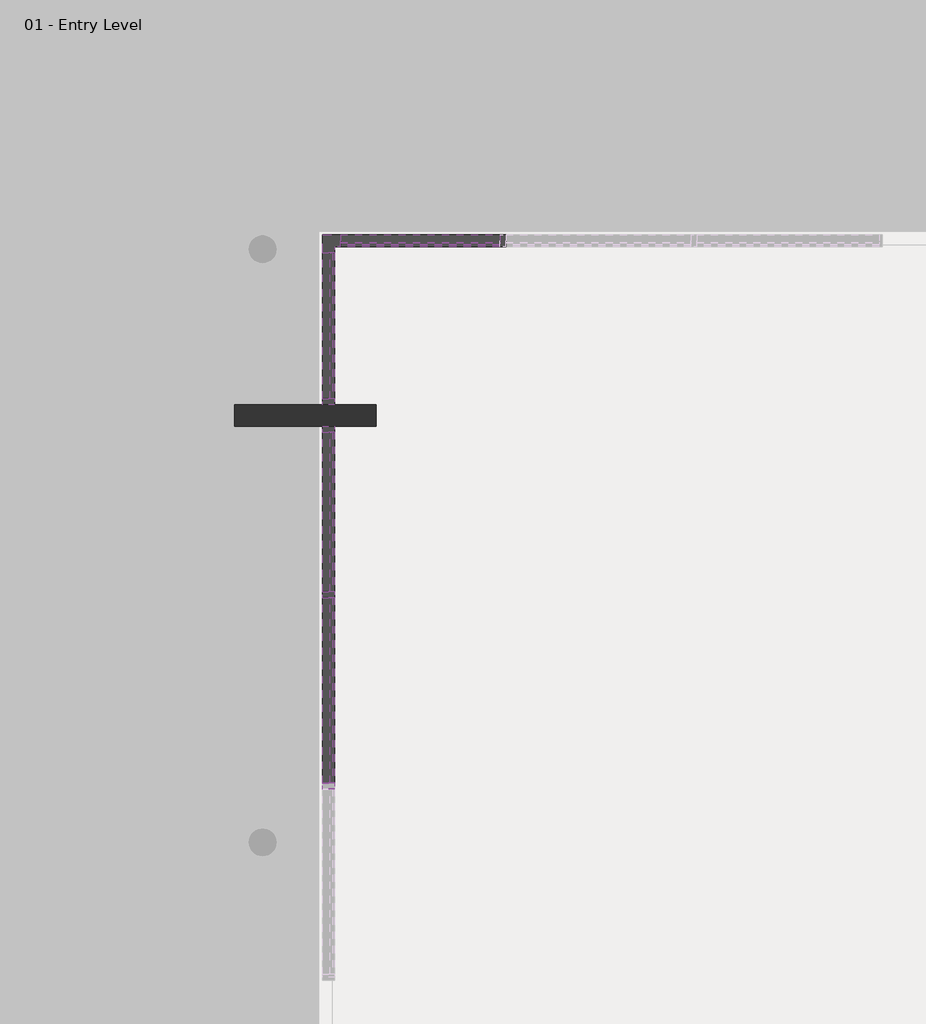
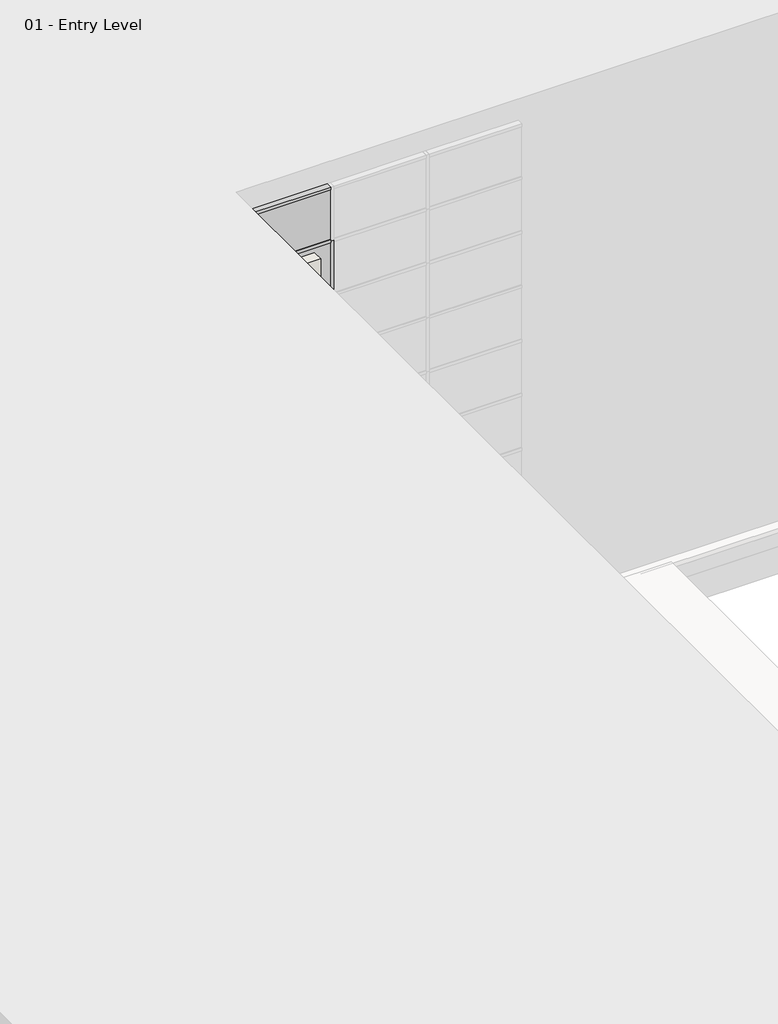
# One storey, part 25 of 35: 92 members, 36 plates, 1 wall.
"""IFC4 building model written with IfcOpenShell, lengths in millimetres."""

from ifc_helpers import new_model, si_unit, origin, origin_with_axes, place, context, project, spatial, polyline, outline, extrude, transform, mapped, element, save
from components import member_863be36e, member_2b49869a, member_75074519, member_391b434c, member_9e90ae50, member_515a5600, member_9fe7059d, member_fedd83b6, member_c1df12fd, system_panel_glazed_1b9d6098, system_panel_glazed_70da479d, system_panel_glazed_379c68fb, system_panel_glazed_1c1023c8, system_panel_glazed_2f1fb611, system_panel_glazed_7e97f2aa

model = new_model("IFC4")

# Units and contexts
model_context = context("Model", 3, world=origin())
ifc_project = project(units=[si_unit("LENGTHUNIT", "METRE", prefix="MILLI")], contexts=[model_context])

# Site, building, storey
site = spatial("IfcSite", under=ifc_project)
building = spatial("IfcBuilding", under=site)
storey = spatial("IfcBuildingStorey", under=building, Name="01 - Entry Level", Elevation=0.0)

# Members
placement = place(None, origin())
member_shape = member_863be36e(model_context)
element("IfcMember", 1, ObjectType="L Corner Mullion : 5\" x 5\" Corner", at=placement, inside=storey, context=model_context, shape_type="MappedRepresentation", body=[
    mapped(member_shape, transform((17184.0207476, 42751.3, 10972.8), x_axis=(-1.0, 0.0, 0.0), y_axis=(0.0, -1.0, 0.0), z_axis=(0.0, 0.0, 1.0))),
])
element("IfcMember", 2, ObjectType="L Corner Mullion : 5\" x 5\" Corner", at=placement, inside=storey, context=model_context, shape_type="MappedRepresentation", body=[
    mapped(member_shape, transform((17184.0207476, 42751.3, 1219.2), x_axis=(-1.0, 0.0, 0.0), y_axis=(0.0, -1.0, 0.0), z_axis=(0.0, 0.0, 1.0))),
])
element("IfcMember", 3, ObjectType="L Corner Mullion : 5\" x 5\" Corner", at=placement, inside=storey, context=model_context, shape_type="MappedRepresentation", body=[
    mapped(member_shape, transform((17184.0207476, 42751.3, 2438.4), x_axis=(-1.0, 0.0, 0.0), y_axis=(0.0, -1.0, 0.0), z_axis=(0.0, 0.0, 1.0))),
])
element("IfcMember", 4, ObjectType="L Corner Mullion : 5\" x 5\" Corner", at=placement, inside=storey, context=model_context, shape_type="MappedRepresentation", body=[
    mapped(member_shape, transform((17184.0207476, 42751.3, 3657.6), x_axis=(-1.0, 0.0, 0.0), y_axis=(0.0, -1.0, 0.0), z_axis=(0.0, 0.0, 1.0))),
])
element("IfcMember", 5, ObjectType="L Corner Mullion : 5\" x 5\" Corner", at=placement, inside=storey, context=model_context, shape_type="MappedRepresentation", body=[
    mapped(member_shape, transform((17184.0207476, 42751.3, 4876.8), x_axis=(-1.0, 0.0, 0.0), y_axis=(0.0, -1.0, 0.0), z_axis=(0.0, 0.0, 1.0))),
])
element("IfcMember", 6, ObjectType="L Corner Mullion : 5\" x 5\" Corner", at=placement, inside=storey, context=model_context, shape_type="MappedRepresentation", body=[
    mapped(member_shape, transform((17184.0207476, 42751.3, 6096.0), x_axis=(-1.0, 0.0, 0.0), y_axis=(0.0, -1.0, 0.0), z_axis=(0.0, 0.0, 1.0))),
])
element("IfcMember", 7, ObjectType="L Corner Mullion : 5\" x 5\" Corner", at=placement, inside=storey, context=model_context, shape_type="MappedRepresentation", body=[
    mapped(member_shape, transform((17184.0207476, 42751.3, 7315.2), x_axis=(-1.0, 0.0, 0.0), y_axis=(0.0, -1.0, 0.0), z_axis=(0.0, 0.0, 1.0))),
])
element("IfcMember", 8, ObjectType="L Corner Mullion : 5\" x 5\" Corner", at=placement, inside=storey, context=model_context, shape_type="MappedRepresentation", body=[
    mapped(member_shape, transform((17184.0207476, 42751.3, 8534.4), x_axis=(-1.0, 0.0, 0.0), y_axis=(0.0, -1.0, 0.0), z_axis=(0.0, 0.0, 1.0))),
])
element("IfcMember", 9, ObjectType="L Corner Mullion : 5\" x 5\" Corner", at=placement, inside=storey, context=model_context, shape_type="MappedRepresentation", body=[
    mapped(member_shape, transform((17184.0207476, 42751.3, 9753.6), x_axis=(-1.0, 0.0, 0.0), y_axis=(0.0, -1.0, 0.0), z_axis=(0.0, 0.0, 1.0))),
])
member_2_shape = member_2b49869a(model_context)
element("IfcMember", 10, ObjectType="Rectangular Mullion : 2.5\" x 5\" rectangular", at=placement, inside=storey, context=model_context, shape_type="MappedRepresentation", body=[
    mapped(member_2_shape, transform((17184.0207476, 36960.1, 9753.6), x_axis=(0.0, 1.0, 0.0), y_axis=(1.0, 0.0, 0.0), z_axis=(0.0, 0.0, -1.0))),
])
element("IfcMember", 11, ObjectType="Rectangular Mullion : 2.5\" x 5\" rectangular", at=placement, inside=storey, context=model_context, shape_type="MappedRepresentation", body=[
    mapped(member_2_shape, transform((17184.0207476, 38992.1, 9753.6), x_axis=(0.0, 1.0, 0.0), y_axis=(1.0, 0.0, 0.0), z_axis=(0.0, 0.0, -1.0))),
])
member_3_shape = member_75074519(model_context)
element("IfcMember", 12, ObjectType="Rectangular Mullion : 2.5\" x 5\" rectangular", at=placement, inside=storey, context=model_context, shape_type="MappedRepresentation", body=[
    mapped(member_3_shape, transform((17184.0207476, 41011.4, 10972.8), x_axis=(0.0, -1.0, 0.0), y_axis=(1.0, 0.0, 0.0), z_axis=(0.0, 0.0, 1.0))),
])
element("IfcMember", 13, ObjectType="Rectangular Mullion : 2.5\" x 5\" rectangular", at=placement, inside=storey, context=model_context, shape_type="MappedRepresentation", body=[
    mapped(member_3_shape, transform((17184.0207476, 40782.8, 9753.6), x_axis=(0.0, 1.0, 0.0), y_axis=(1.0, 0.0, 0.0), z_axis=(0.0, 0.0, -1.0))),
])
member_4_shape = member_391b434c(model_context)
element("IfcMember", 14, ObjectType="Rectangular Mullion : 2.5\" x 5\" rectangular", at=placement, inside=storey, context=model_context, shape_type="MappedRepresentation", body=[
    mapped(member_4_shape, transform((17184.0207476, 38960.35, 10972.8), x_axis=(0.0, 0.0, 1.0), y_axis=(1.0, 0.0, 0.0), z_axis=(0.0, 1.0, 0.0))),
])
element("IfcMember", 15, ObjectType="Rectangular Mullion : 2.5\" x 5\" rectangular", at=placement, inside=storey, context=model_context, shape_type="MappedRepresentation", body=[
    mapped(member_4_shape, transform((19069.9707476, 42751.3, 0.0), x_axis=(0.0, 0.0, -1.0), y_axis=(0.0, -1.0, 0.0), z_axis=(-1.0, 0.0, 0.0))),
])
member_5_shape = member_9e90ae50(model_context)
element("IfcMember", 16, ObjectType="Rectangular Mullion : 2.5\" x 5\" rectangular", at=placement, inside=storey, context=model_context, shape_type="MappedRepresentation", body=[
    mapped(member_5_shape, transform((17184.0207476, 38960.35, 1219.2), x_axis=(0.0, 0.0, 1.0), y_axis=(1.0, 0.0, 0.0), z_axis=(0.0, 1.0, 0.0))),
])
element("IfcMember", 17, ObjectType="Rectangular Mullion : 2.5\" x 5\" rectangular", at=placement, inside=storey, context=model_context, shape_type="MappedRepresentation", body=[
    mapped(member_5_shape, transform((17184.0207476, 38960.35, 2438.4), x_axis=(0.0, 0.0, 1.0), y_axis=(1.0, 0.0, 0.0), z_axis=(0.0, 1.0, 0.0))),
])
element("IfcMember", 18, ObjectType="Rectangular Mullion : 2.5\" x 5\" rectangular", at=placement, inside=storey, context=model_context, shape_type="MappedRepresentation", body=[
    mapped(member_5_shape, transform((17184.0207476, 38960.35, 3657.6), x_axis=(0.0, 0.0, 1.0), y_axis=(1.0, 0.0, 0.0), z_axis=(0.0, 1.0, 0.0))),
])
element("IfcMember", 19, ObjectType="Rectangular Mullion : 2.5\" x 5\" rectangular", at=placement, inside=storey, context=model_context, shape_type="MappedRepresentation", body=[
    mapped(member_5_shape, transform((17184.0207476, 38960.35, 4876.8), x_axis=(0.0, 0.0, 1.0), y_axis=(1.0, 0.0, 0.0), z_axis=(0.0, 1.0, 0.0))),
])
element("IfcMember", 20, ObjectType="Rectangular Mullion : 2.5\" x 5\" rectangular", at=placement, inside=storey, context=model_context, shape_type="MappedRepresentation", body=[
    mapped(member_5_shape, transform((17184.0207476, 38960.35, 6096.0), x_axis=(0.0, 0.0, 1.0), y_axis=(1.0, 0.0, 0.0), z_axis=(0.0, 1.0, 0.0))),
])
element("IfcMember", 21, ObjectType="Rectangular Mullion : 2.5\" x 5\" rectangular", at=placement, inside=storey, context=model_context, shape_type="MappedRepresentation", body=[
    mapped(member_5_shape, transform((17184.0207476, 38960.35, 7315.2), x_axis=(0.0, 0.0, 1.0), y_axis=(1.0, 0.0, 0.0), z_axis=(0.0, 1.0, 0.0))),
])
element("IfcMember", 22, ObjectType="Rectangular Mullion : 2.5\" x 5\" rectangular", at=placement, inside=storey, context=model_context, shape_type="MappedRepresentation", body=[
    mapped(member_5_shape, transform((17184.0207476, 38960.35, 8534.4), x_axis=(0.0, 0.0, 1.0), y_axis=(1.0, 0.0, 0.0), z_axis=(0.0, 1.0, 0.0))),
])
element("IfcMember", 23, ObjectType="Rectangular Mullion : 2.5\" x 5\" rectangular", at=placement, inside=storey, context=model_context, shape_type="MappedRepresentation", body=[
    mapped(member_5_shape, transform((17184.0207476, 38960.35, 9753.6), x_axis=(0.0, 0.0, 1.0), y_axis=(1.0, 0.0, 0.0), z_axis=(0.0, 1.0, 0.0))),
])
element("IfcMember", 24, ObjectType="Rectangular Mullion : 2.5\" x 5\" rectangular", at=placement, inside=storey, context=model_context, shape_type="MappedRepresentation", body=[
    mapped(member_2_shape, transform((19038.2207476, 42751.3, 0.0), x_axis=(1.0, 0.0, 0.0), y_axis=(0.0, -1.0, 0.0), z_axis=(0.0, 0.0, -1.0))),
])
element("IfcMember", 25, ObjectType="Rectangular Mullion : 2.5\" x 5\" rectangular", at=placement, inside=storey, context=model_context, shape_type="MappedRepresentation", body=[
    mapped(member_2_shape, transform((17184.0207476, 38992.1, 0.0), x_axis=(0.0, 1.0, 0.0), y_axis=(1.0, 0.0, 0.0), z_axis=(0.0, 0.0, -1.0))),
])
element("IfcMember", 26, ObjectType="Rectangular Mullion : 2.5\" x 5\" rectangular", at=placement, inside=storey, context=model_context, shape_type="MappedRepresentation", body=[
    mapped(member_2_shape, transform((19038.2207476, 42751.3, 1219.2), x_axis=(1.0, 0.0, 0.0), y_axis=(0.0, -1.0, 0.0), z_axis=(0.0, 0.0, -1.0))),
])
element("IfcMember", 27, ObjectType="Rectangular Mullion : 2.5\" x 5\" rectangular", at=placement, inside=storey, context=model_context, shape_type="MappedRepresentation", body=[
    mapped(member_2_shape, transform((19038.2207476, 42751.3, 2438.4), x_axis=(1.0, 0.0, 0.0), y_axis=(0.0, -1.0, 0.0), z_axis=(0.0, 0.0, -1.0))),
])
element("IfcMember", 28, ObjectType="Rectangular Mullion : 2.5\" x 5\" rectangular", at=placement, inside=storey, context=model_context, shape_type="MappedRepresentation", body=[
    mapped(member_2_shape, transform((19038.2207476, 42751.3, 3657.6), x_axis=(1.0, 0.0, 0.0), y_axis=(0.0, -1.0, 0.0), z_axis=(0.0, 0.0, -1.0))),
])
element("IfcMember", 29, ObjectType="Rectangular Mullion : 2.5\" x 5\" rectangular", at=placement, inside=storey, context=model_context, shape_type="MappedRepresentation", body=[
    mapped(member_2_shape, transform((19038.2207476, 42751.3, 4876.8), x_axis=(1.0, 0.0, 0.0), y_axis=(0.0, -1.0, 0.0), z_axis=(0.0, 0.0, -1.0))),
])
element("IfcMember", 30, ObjectType="Rectangular Mullion : 2.5\" x 5\" rectangular", at=placement, inside=storey, context=model_context, shape_type="MappedRepresentation", body=[
    mapped(member_2_shape, transform((19038.2207476, 42751.3, 6096.0), x_axis=(1.0, 0.0, 0.0), y_axis=(0.0, -1.0, 0.0), z_axis=(0.0, 0.0, -1.0))),
])
element("IfcMember", 31, ObjectType="Rectangular Mullion : 2.5\" x 5\" rectangular", at=placement, inside=storey, context=model_context, shape_type="MappedRepresentation", body=[
    mapped(member_2_shape, transform((19038.2207476, 42751.3, 7315.2), x_axis=(1.0, 0.0, 0.0), y_axis=(0.0, -1.0, 0.0), z_axis=(0.0, 0.0, -1.0))),
])
element("IfcMember", 32, ObjectType="Rectangular Mullion : 2.5\" x 5\" rectangular", at=placement, inside=storey, context=model_context, shape_type="MappedRepresentation", body=[
    mapped(member_2_shape, transform((19038.2207476, 42751.3, 8534.4), x_axis=(1.0, 0.0, 0.0), y_axis=(0.0, -1.0, 0.0), z_axis=(0.0, 0.0, -1.0))),
])
element("IfcMember", 33, ObjectType="Rectangular Mullion : 2.5\" x 5\" rectangular", at=placement, inside=storey, context=model_context, shape_type="MappedRepresentation", body=[
    mapped(member_2_shape, transform((17184.0207476, 36960.1, 1219.2), x_axis=(0.0, 1.0, 0.0), y_axis=(1.0, 0.0, 0.0), z_axis=(0.0, 0.0, -1.0))),
])
element("IfcMember", 34, ObjectType="Rectangular Mullion : 2.5\" x 5\" rectangular", at=placement, inside=storey, context=model_context, shape_type="MappedRepresentation", body=[
    mapped(member_2_shape, transform((17184.0207476, 38992.1, 1219.2), x_axis=(0.0, 1.0, 0.0), y_axis=(1.0, 0.0, 0.0), z_axis=(0.0, 0.0, -1.0))),
])
element("IfcMember", 35, ObjectType="Rectangular Mullion : 2.5\" x 5\" rectangular", at=placement, inside=storey, context=model_context, shape_type="MappedRepresentation", body=[
    mapped(member_2_shape, transform((17184.0207476, 36960.1, 2438.4), x_axis=(0.0, 1.0, 0.0), y_axis=(1.0, 0.0, 0.0), z_axis=(0.0, 0.0, -1.0))),
])
element("IfcMember", 36, ObjectType="Rectangular Mullion : 2.5\" x 5\" rectangular", at=placement, inside=storey, context=model_context, shape_type="MappedRepresentation", body=[
    mapped(member_2_shape, transform((17184.0207476, 38992.1, 2438.4), x_axis=(0.0, 1.0, 0.0), y_axis=(1.0, 0.0, 0.0), z_axis=(0.0, 0.0, -1.0))),
])
element("IfcMember", 37, ObjectType="Rectangular Mullion : 2.5\" x 5\" rectangular", at=placement, inside=storey, context=model_context, shape_type="MappedRepresentation", body=[
    mapped(member_2_shape, transform((17184.0207476, 36960.1, 3657.6), x_axis=(0.0, 1.0, 0.0), y_axis=(1.0, 0.0, 0.0), z_axis=(0.0, 0.0, -1.0))),
])
element("IfcMember", 38, ObjectType="Rectangular Mullion : 2.5\" x 5\" rectangular", at=placement, inside=storey, context=model_context, shape_type="MappedRepresentation", body=[
    mapped(member_2_shape, transform((17184.0207476, 38992.1, 3657.6), x_axis=(0.0, 1.0, 0.0), y_axis=(1.0, 0.0, 0.0), z_axis=(0.0, 0.0, -1.0))),
])
element("IfcMember", 39, ObjectType="Rectangular Mullion : 2.5\" x 5\" rectangular", at=placement, inside=storey, context=model_context, shape_type="MappedRepresentation", body=[
    mapped(member_2_shape, transform((17184.0207476, 36960.1, 4876.8), x_axis=(0.0, 1.0, 0.0), y_axis=(1.0, 0.0, 0.0), z_axis=(0.0, 0.0, -1.0))),
])
element("IfcMember", 40, ObjectType="Rectangular Mullion : 2.5\" x 5\" rectangular", at=placement, inside=storey, context=model_context, shape_type="MappedRepresentation", body=[
    mapped(member_2_shape, transform((17184.0207476, 38992.1, 4876.8), x_axis=(0.0, 1.0, 0.0), y_axis=(1.0, 0.0, 0.0), z_axis=(0.0, 0.0, -1.0))),
])
element("IfcMember", 41, ObjectType="Rectangular Mullion : 2.5\" x 5\" rectangular", at=placement, inside=storey, context=model_context, shape_type="MappedRepresentation", body=[
    mapped(member_2_shape, transform((17184.0207476, 36960.1, 6096.0), x_axis=(0.0, 1.0, 0.0), y_axis=(1.0, 0.0, 0.0), z_axis=(0.0, 0.0, -1.0))),
])
element("IfcMember", 42, ObjectType="Rectangular Mullion : 2.5\" x 5\" rectangular", at=placement, inside=storey, context=model_context, shape_type="MappedRepresentation", body=[
    mapped(member_2_shape, transform((17184.0207476, 38992.1, 6096.0), x_axis=(0.0, 1.0, 0.0), y_axis=(1.0, 0.0, 0.0), z_axis=(0.0, 0.0, -1.0))),
])
element("IfcMember", 43, ObjectType="Rectangular Mullion : 2.5\" x 5\" rectangular", at=placement, inside=storey, context=model_context, shape_type="MappedRepresentation", body=[
    mapped(member_2_shape, transform((17184.0207476, 36960.1, 7315.2), x_axis=(0.0, 1.0, 0.0), y_axis=(1.0, 0.0, 0.0), z_axis=(0.0, 0.0, -1.0))),
])
element("IfcMember", 44, ObjectType="Rectangular Mullion : 2.5\" x 5\" rectangular", at=placement, inside=storey, context=model_context, shape_type="MappedRepresentation", body=[
    mapped(member_2_shape, transform((17184.0207476, 38992.1, 7315.2), x_axis=(0.0, 1.0, 0.0), y_axis=(1.0, 0.0, 0.0), z_axis=(0.0, 0.0, -1.0))),
])
element("IfcMember", 45, ObjectType="Rectangular Mullion : 2.5\" x 5\" rectangular", at=placement, inside=storey, context=model_context, shape_type="MappedRepresentation", body=[
    mapped(member_2_shape, transform((17184.0207476, 36960.1, 8534.4), x_axis=(0.0, 1.0, 0.0), y_axis=(1.0, 0.0, 0.0), z_axis=(0.0, 0.0, -1.0))),
])
element("IfcMember", 46, ObjectType="Rectangular Mullion : 2.5\" x 5\" rectangular", at=placement, inside=storey, context=model_context, shape_type="MappedRepresentation", body=[
    mapped(member_2_shape, transform((17184.0207476, 38992.1, 8534.4), x_axis=(0.0, 1.0, 0.0), y_axis=(1.0, 0.0, 0.0), z_axis=(0.0, 0.0, -1.0))),
])
element("IfcMember", 47, ObjectType="Rectangular Mullion : 2.5\" x 5\" rectangular", at=placement, inside=storey, context=model_context, shape_type="MappedRepresentation", body=[
    mapped(member_3_shape, transform((17184.0207476, 40782.8, 0.0), x_axis=(0.0, 1.0, 0.0), y_axis=(1.0, 0.0, 0.0), z_axis=(0.0, 0.0, -1.0))),
])
element("IfcMember", 48, ObjectType="Rectangular Mullion : 2.5\" x 5\" rectangular", at=placement, inside=storey, context=model_context, shape_type="MappedRepresentation", body=[
    mapped(member_3_shape, transform((17184.0207476, 40782.8, 1219.2), x_axis=(0.0, 1.0, 0.0), y_axis=(1.0, 0.0, 0.0), z_axis=(0.0, 0.0, -1.0))),
])
element("IfcMember", 49, ObjectType="Rectangular Mullion : 2.5\" x 5\" rectangular", at=placement, inside=storey, context=model_context, shape_type="MappedRepresentation", body=[
    mapped(member_3_shape, transform((17184.0207476, 40782.8, 2438.4), x_axis=(0.0, 1.0, 0.0), y_axis=(1.0, 0.0, 0.0), z_axis=(0.0, 0.0, -1.0))),
])
element("IfcMember", 50, ObjectType="Rectangular Mullion : 2.5\" x 5\" rectangular", at=placement, inside=storey, context=model_context, shape_type="MappedRepresentation", body=[
    mapped(member_3_shape, transform((17184.0207476, 40782.8, 3657.6), x_axis=(0.0, 1.0, 0.0), y_axis=(1.0, 0.0, 0.0), z_axis=(0.0, 0.0, -1.0))),
])
element("IfcMember", 51, ObjectType="Rectangular Mullion : 2.5\" x 5\" rectangular", at=placement, inside=storey, context=model_context, shape_type="MappedRepresentation", body=[
    mapped(member_3_shape, transform((17184.0207476, 40782.8, 4876.8), x_axis=(0.0, 1.0, 0.0), y_axis=(1.0, 0.0, 0.0), z_axis=(0.0, 0.0, -1.0))),
])
element("IfcMember", 52, ObjectType="Rectangular Mullion : 2.5\" x 5\" rectangular", at=placement, inside=storey, context=model_context, shape_type="MappedRepresentation", body=[
    mapped(member_3_shape, transform((17184.0207476, 40782.8, 6096.0), x_axis=(0.0, 1.0, 0.0), y_axis=(1.0, 0.0, 0.0), z_axis=(0.0, 0.0, -1.0))),
])
element("IfcMember", 53, ObjectType="Rectangular Mullion : 2.5\" x 5\" rectangular", at=placement, inside=storey, context=model_context, shape_type="MappedRepresentation", body=[
    mapped(member_3_shape, transform((17184.0207476, 40782.8, 7315.2), x_axis=(0.0, 1.0, 0.0), y_axis=(1.0, 0.0, 0.0), z_axis=(0.0, 0.0, -1.0))),
])
element("IfcMember", 54, ObjectType="Rectangular Mullion : 2.5\" x 5\" rectangular", at=placement, inside=storey, context=model_context, shape_type="MappedRepresentation", body=[
    mapped(member_3_shape, transform((17184.0207476, 40782.8, 8534.4), x_axis=(0.0, 1.0, 0.0), y_axis=(1.0, 0.0, 0.0), z_axis=(0.0, 0.0, -1.0))),
])
element("IfcMember", 55, ObjectType="Rectangular Mullion : 2.5\" x 5\" rectangular", at=placement, inside=storey, context=model_context, shape_type="MappedRepresentation", body=[
    mapped(member_3_shape, transform((17184.0207476, 41011.4, 1219.2), x_axis=(0.0, -1.0, 0.0), y_axis=(1.0, 0.0, 0.0), z_axis=(0.0, 0.0, 1.0))),
])
element("IfcMember", 56, ObjectType="Rectangular Mullion : 2.5\" x 5\" rectangular", at=placement, inside=storey, context=model_context, shape_type="MappedRepresentation", body=[
    mapped(member_3_shape, transform((17184.0207476, 41011.4, 2438.4), x_axis=(0.0, -1.0, 0.0), y_axis=(1.0, 0.0, 0.0), z_axis=(0.0, 0.0, 1.0))),
])
element("IfcMember", 57, ObjectType="Rectangular Mullion : 2.5\" x 5\" rectangular", at=placement, inside=storey, context=model_context, shape_type="MappedRepresentation", body=[
    mapped(member_3_shape, transform((17184.0207476, 41011.4, 3657.6), x_axis=(0.0, -1.0, 0.0), y_axis=(1.0, 0.0, 0.0), z_axis=(0.0, 0.0, 1.0))),
])
element("IfcMember", 58, ObjectType="Rectangular Mullion : 2.5\" x 5\" rectangular", at=placement, inside=storey, context=model_context, shape_type="MappedRepresentation", body=[
    mapped(member_3_shape, transform((17184.0207476, 41011.4, 4876.8), x_axis=(0.0, -1.0, 0.0), y_axis=(1.0, 0.0, 0.0), z_axis=(0.0, 0.0, 1.0))),
])
element("IfcMember", 59, ObjectType="Rectangular Mullion : 2.5\" x 5\" rectangular", at=placement, inside=storey, context=model_context, shape_type="MappedRepresentation", body=[
    mapped(member_3_shape, transform((17184.0207476, 41011.4, 6096.0), x_axis=(0.0, -1.0, 0.0), y_axis=(1.0, 0.0, 0.0), z_axis=(0.0, 0.0, 1.0))),
])
element("IfcMember", 60, ObjectType="Rectangular Mullion : 2.5\" x 5\" rectangular", at=placement, inside=storey, context=model_context, shape_type="MappedRepresentation", body=[
    mapped(member_3_shape, transform((17184.0207476, 41011.4, 7315.2), x_axis=(0.0, -1.0, 0.0), y_axis=(1.0, 0.0, 0.0), z_axis=(0.0, 0.0, 1.0))),
])
element("IfcMember", 61, ObjectType="Rectangular Mullion : 2.5\" x 5\" rectangular", at=placement, inside=storey, context=model_context, shape_type="MappedRepresentation", body=[
    mapped(member_3_shape, transform((17184.0207476, 41011.4, 8534.4), x_axis=(0.0, -1.0, 0.0), y_axis=(1.0, 0.0, 0.0), z_axis=(0.0, 0.0, 1.0))),
])
element("IfcMember", 62, ObjectType="Rectangular Mullion : 2.5\" x 5\" rectangular", at=placement, inside=storey, context=model_context, shape_type="MappedRepresentation", body=[
    mapped(member_3_shape, transform((17184.0207476, 41011.4, 9753.6), x_axis=(0.0, -1.0, 0.0), y_axis=(1.0, 0.0, 0.0), z_axis=(0.0, 0.0, 1.0))),
])
member_6_shape = member_515a5600(model_context)
element("IfcMember", 63, ObjectType="Rectangular Mullion : 2.5\" x 5\" rectangular", at=placement, inside=storey, context=model_context, shape_type="MappedRepresentation", body=[
    mapped(member_6_shape, transform((17184.0207476, 40719.3, 10972.8), x_axis=(0.0, 0.0, 1.0), y_axis=(1.0, 0.0, 0.0), z_axis=(0.0, 1.0, 0.0))),
])
element("IfcMember", 64, ObjectType="Rectangular Mullion : 2.5\" x 5\" rectangular", at=placement, inside=storey, context=model_context, shape_type="MappedRepresentation", body=[
    mapped(member_6_shape, transform((19006.4707476, 42751.3, 10972.8), x_axis=(0.0, 0.0, 1.0), y_axis=(0.0, -1.0, 0.0), z_axis=(1.0, 0.0, 0.0))),
])
element("IfcMember", 65, ObjectType="Rectangular Mullion : 2.5\" x 5\" rectangular", at=placement, inside=storey, context=model_context, shape_type="MappedRepresentation", body=[
    mapped(member_6_shape, transform((17311.0207476, 42751.3, 0.0), x_axis=(0.0, 0.0, -1.0), y_axis=(0.0, -1.0, 0.0), z_axis=(-1.0, 0.0, 0.0))),
])
element("IfcMember", 66, ObjectType="Rectangular Mullion : 2.5\" x 5\" rectangular", at=placement, inside=storey, context=model_context, shape_type="MappedRepresentation", body=[
    mapped(member_6_shape, transform((17184.0207476, 39023.85, 0.0), x_axis=(0.0, 0.0, -1.0), y_axis=(1.0, 0.0, 0.0), z_axis=(0.0, -1.0, 0.0))),
])
member_7_shape = member_9fe7059d(model_context)
element("IfcMember", 67, ObjectType="Rectangular Mullion : 2.5\" x 5\" rectangular", at=placement, inside=storey, context=model_context, shape_type="MappedRepresentation", body=[
    mapped(member_7_shape, transform((19006.4707476, 42751.3, 1219.2), x_axis=(0.0, 0.0, 1.0), y_axis=(0.0, -1.0, 0.0), z_axis=(1.0, 0.0, 0.0))),
])
element("IfcMember", 68, ObjectType="Rectangular Mullion : 2.5\" x 5\" rectangular", at=placement, inside=storey, context=model_context, shape_type="MappedRepresentation", body=[
    mapped(member_7_shape, transform((19006.4707476, 42751.3, 2438.4), x_axis=(0.0, 0.0, 1.0), y_axis=(0.0, -1.0, 0.0), z_axis=(1.0, 0.0, 0.0))),
])
element("IfcMember", 69, ObjectType="Rectangular Mullion : 2.5\" x 5\" rectangular", at=placement, inside=storey, context=model_context, shape_type="MappedRepresentation", body=[
    mapped(member_7_shape, transform((19006.4707476, 42751.3, 3657.6), x_axis=(0.0, 0.0, 1.0), y_axis=(0.0, -1.0, 0.0), z_axis=(1.0, 0.0, 0.0))),
])
element("IfcMember", 70, ObjectType="Rectangular Mullion : 2.5\" x 5\" rectangular", at=placement, inside=storey, context=model_context, shape_type="MappedRepresentation", body=[
    mapped(member_7_shape, transform((19006.4707476, 42751.3, 4876.8), x_axis=(0.0, 0.0, 1.0), y_axis=(0.0, -1.0, 0.0), z_axis=(1.0, 0.0, 0.0))),
])
element("IfcMember", 71, ObjectType="Rectangular Mullion : 2.5\" x 5\" rectangular", at=placement, inside=storey, context=model_context, shape_type="MappedRepresentation", body=[
    mapped(member_7_shape, transform((19006.4707476, 42751.3, 6096.0), x_axis=(0.0, 0.0, 1.0), y_axis=(0.0, -1.0, 0.0), z_axis=(1.0, 0.0, 0.0))),
])
element("IfcMember", 72, ObjectType="Rectangular Mullion : 2.5\" x 5\" rectangular", at=placement, inside=storey, context=model_context, shape_type="MappedRepresentation", body=[
    mapped(member_7_shape, transform((19006.4707476, 42751.3, 7315.2), x_axis=(0.0, 0.0, 1.0), y_axis=(0.0, -1.0, 0.0), z_axis=(1.0, 0.0, 0.0))),
])
element("IfcMember", 73, ObjectType="Rectangular Mullion : 2.5\" x 5\" rectangular", at=placement, inside=storey, context=model_context, shape_type="MappedRepresentation", body=[
    mapped(member_7_shape, transform((19006.4707476, 42751.3, 8534.4), x_axis=(0.0, 0.0, 1.0), y_axis=(0.0, -1.0, 0.0), z_axis=(1.0, 0.0, 0.0))),
])
element("IfcMember", 74, ObjectType="Rectangular Mullion : 2.5\" x 5\" rectangular", at=placement, inside=storey, context=model_context, shape_type="MappedRepresentation", body=[
    mapped(member_7_shape, transform((19006.4707476, 42751.3, 9753.6), x_axis=(0.0, 0.0, 1.0), y_axis=(0.0, -1.0, 0.0), z_axis=(1.0, 0.0, 0.0))),
])
element("IfcMember", 75, ObjectType="Rectangular Mullion : 2.5\" x 5\" rectangular", at=placement, inside=storey, context=model_context, shape_type="MappedRepresentation", body=[
    mapped(member_7_shape, transform((17184.0207476, 40719.3, 1219.2), x_axis=(0.0, 0.0, 1.0), y_axis=(1.0, 0.0, 0.0), z_axis=(0.0, 1.0, 0.0))),
])
element("IfcMember", 76, ObjectType="Rectangular Mullion : 2.5\" x 5\" rectangular", at=placement, inside=storey, context=model_context, shape_type="MappedRepresentation", body=[
    mapped(member_7_shape, transform((17184.0207476, 40719.3, 2438.4), x_axis=(0.0, 0.0, 1.0), y_axis=(1.0, 0.0, 0.0), z_axis=(0.0, 1.0, 0.0))),
])
element("IfcMember", 77, ObjectType="Rectangular Mullion : 2.5\" x 5\" rectangular", at=placement, inside=storey, context=model_context, shape_type="MappedRepresentation", body=[
    mapped(member_7_shape, transform((17184.0207476, 40719.3, 3657.6), x_axis=(0.0, 0.0, 1.0), y_axis=(1.0, 0.0, 0.0), z_axis=(0.0, 1.0, 0.0))),
])
element("IfcMember", 78, ObjectType="Rectangular Mullion : 2.5\" x 5\" rectangular", at=placement, inside=storey, context=model_context, shape_type="MappedRepresentation", body=[
    mapped(member_7_shape, transform((17184.0207476, 40719.3, 4876.8), x_axis=(0.0, 0.0, 1.0), y_axis=(1.0, 0.0, 0.0), z_axis=(0.0, 1.0, 0.0))),
])
element("IfcMember", 79, ObjectType="Rectangular Mullion : 2.5\" x 5\" rectangular", at=placement, inside=storey, context=model_context, shape_type="MappedRepresentation", body=[
    mapped(member_7_shape, transform((17184.0207476, 40719.3, 6096.0), x_axis=(0.0, 0.0, 1.0), y_axis=(1.0, 0.0, 0.0), z_axis=(0.0, 1.0, 0.0))),
])
element("IfcMember", 80, ObjectType="Rectangular Mullion : 2.5\" x 5\" rectangular", at=placement, inside=storey, context=model_context, shape_type="MappedRepresentation", body=[
    mapped(member_7_shape, transform((17184.0207476, 40719.3, 7315.2), x_axis=(0.0, 0.0, 1.0), y_axis=(1.0, 0.0, 0.0), z_axis=(0.0, 1.0, 0.0))),
])
element("IfcMember", 81, ObjectType="Rectangular Mullion : 2.5\" x 5\" rectangular", at=placement, inside=storey, context=model_context, shape_type="MappedRepresentation", body=[
    mapped(member_7_shape, transform((17184.0207476, 40719.3, 8534.4), x_axis=(0.0, 0.0, 1.0), y_axis=(1.0, 0.0, 0.0), z_axis=(0.0, 1.0, 0.0))),
])
element("IfcMember", 82, ObjectType="Rectangular Mullion : 2.5\" x 5\" rectangular", at=placement, inside=storey, context=model_context, shape_type="MappedRepresentation", body=[
    mapped(member_7_shape, transform((17184.0207476, 40719.3, 9753.6), x_axis=(0.0, 0.0, 1.0), y_axis=(1.0, 0.0, 0.0), z_axis=(0.0, 1.0, 0.0))),
])
member_8_shape = member_fedd83b6(model_context)
element("IfcMember", 83, ObjectType="Rectangular Mullion : 2.5\" x 5\" rectangular", at=placement, inside=storey, context=model_context, shape_type="MappedRepresentation", body=[
    mapped(member_8_shape, transform((17184.0207476, 42624.3, 10972.8), x_axis=(0.0, 0.0, 1.0), y_axis=(1.0, 0.0, 0.0), z_axis=(0.0, 1.0, 0.0))),
])
element("IfcMember", 84, ObjectType="Rectangular Mullion : 2.5\" x 5\" rectangular", at=placement, inside=storey, context=model_context, shape_type="MappedRepresentation", body=[
    mapped(member_8_shape, transform((17184.0207476, 41074.9, 0.0), x_axis=(0.0, 0.0, -1.0), y_axis=(1.0, 0.0, 0.0), z_axis=(0.0, -1.0, 0.0))),
])
member_9_shape = member_c1df12fd(model_context)
element("IfcMember", 85, ObjectType="Rectangular Mullion : 2.5\" x 5\" rectangular", at=placement, inside=storey, context=model_context, shape_type="MappedRepresentation", body=[
    mapped(member_9_shape, transform((17184.0207476, 42624.3, 1219.2), x_axis=(0.0, 0.0, 1.0), y_axis=(1.0, 0.0, 0.0), z_axis=(0.0, 1.0, 0.0))),
])
element("IfcMember", 86, ObjectType="Rectangular Mullion : 2.5\" x 5\" rectangular", at=placement, inside=storey, context=model_context, shape_type="MappedRepresentation", body=[
    mapped(member_9_shape, transform((17184.0207476, 42624.3, 2438.4), x_axis=(0.0, 0.0, 1.0), y_axis=(1.0, 0.0, 0.0), z_axis=(0.0, 1.0, 0.0))),
])
element("IfcMember", 87, ObjectType="Rectangular Mullion : 2.5\" x 5\" rectangular", at=placement, inside=storey, context=model_context, shape_type="MappedRepresentation", body=[
    mapped(member_9_shape, transform((17184.0207476, 42624.3, 3657.6), x_axis=(0.0, 0.0, 1.0), y_axis=(1.0, 0.0, 0.0), z_axis=(0.0, 1.0, 0.0))),
])
element("IfcMember", 88, ObjectType="Rectangular Mullion : 2.5\" x 5\" rectangular", at=placement, inside=storey, context=model_context, shape_type="MappedRepresentation", body=[
    mapped(member_9_shape, transform((17184.0207476, 42624.3, 4876.8), x_axis=(0.0, 0.0, 1.0), y_axis=(1.0, 0.0, 0.0), z_axis=(0.0, 1.0, 0.0))),
])
element("IfcMember", 89, ObjectType="Rectangular Mullion : 2.5\" x 5\" rectangular", at=placement, inside=storey, context=model_context, shape_type="MappedRepresentation", body=[
    mapped(member_9_shape, transform((17184.0207476, 42624.3, 6096.0), x_axis=(0.0, 0.0, 1.0), y_axis=(1.0, 0.0, 0.0), z_axis=(0.0, 1.0, 0.0))),
])
element("IfcMember", 90, ObjectType="Rectangular Mullion : 2.5\" x 5\" rectangular", at=placement, inside=storey, context=model_context, shape_type="MappedRepresentation", body=[
    mapped(member_9_shape, transform((17184.0207476, 42624.3, 7315.2), x_axis=(0.0, 0.0, 1.0), y_axis=(1.0, 0.0, 0.0), z_axis=(0.0, 1.0, 0.0))),
])
element("IfcMember", 91, ObjectType="Rectangular Mullion : 2.5\" x 5\" rectangular", at=placement, inside=storey, context=model_context, shape_type="MappedRepresentation", body=[
    mapped(member_9_shape, transform((17184.0207476, 42624.3, 8534.4), x_axis=(0.0, 0.0, 1.0), y_axis=(1.0, 0.0, 0.0), z_axis=(0.0, 1.0, 0.0))),
])
element("IfcMember", 92, ObjectType="Rectangular Mullion : 2.5\" x 5\" rectangular", at=placement, inside=storey, context=model_context, shape_type="MappedRepresentation", body=[
    mapped(member_9_shape, transform((17184.0207476, 42624.3, 9753.6), x_axis=(0.0, 0.0, 1.0), y_axis=(1.0, 0.0, 0.0), z_axis=(0.0, 1.0, 0.0))),
])

# Plates
system_panel_glazed_shape = system_panel_glazed_1b9d6098(model_context)
element("IfcPlate", 93, ObjectType="System Panel : Glazed", at=placement, inside=storey, context=model_context, shape_type="MappedRepresentation", body=[
    mapped(system_panel_glazed_shape, transform((17184.0207476, 37976.1, 63.5), x_axis=(0.0, 1.0, 0.0), y_axis=(-1.0, 0.0, 0.0), z_axis=(0.0, 0.0, 1.0))),
])
element("IfcPlate", 94, ObjectType="System Panel : Glazed", at=placement, inside=storey, context=model_context, shape_type="MappedRepresentation", body=[
    mapped(system_panel_glazed_shape, transform((17184.0207476, 37976.1, 9785.35), x_axis=(0.0, 1.0, 0.0), y_axis=(-1.0, 0.0, 0.0), z_axis=(0.0, 0.0, 1.0))),
])
system_panel_glazed_2_shape = system_panel_glazed_70da479d(model_context)
element("IfcPlate", 95, ObjectType="System Panel : Glazed", at=placement, inside=storey, context=model_context, shape_type="MappedRepresentation", body=[
    mapped(system_panel_glazed_2_shape, transform((17184.0207476, 37976.1, 1250.95), x_axis=(0.0, 1.0, 0.0), y_axis=(-1.0, 0.0, 0.0), z_axis=(0.0, 0.0, 1.0))),
])
element("IfcPlate", 96, ObjectType="System Panel : Glazed", at=placement, inside=storey, context=model_context, shape_type="MappedRepresentation", body=[
    mapped(system_panel_glazed_2_shape, transform((17184.0207476, 37976.1, 2470.15), x_axis=(0.0, 1.0, 0.0), y_axis=(-1.0, 0.0, 0.0), z_axis=(0.0, 0.0, 1.0))),
])
element("IfcPlate", 97, ObjectType="System Panel : Glazed", at=placement, inside=storey, context=model_context, shape_type="MappedRepresentation", body=[
    mapped(system_panel_glazed_2_shape, transform((17184.0207476, 37976.1, 3689.35), x_axis=(0.0, 1.0, 0.0), y_axis=(-1.0, 0.0, 0.0), z_axis=(0.0, 0.0, 1.0))),
])
element("IfcPlate", 98, ObjectType="System Panel : Glazed", at=placement, inside=storey, context=model_context, shape_type="MappedRepresentation", body=[
    mapped(system_panel_glazed_2_shape, transform((17184.0207476, 37976.1, 4908.55), x_axis=(0.0, 1.0, 0.0), y_axis=(-1.0, 0.0, 0.0), z_axis=(0.0, 0.0, 1.0))),
])
element("IfcPlate", 99, ObjectType="System Panel : Glazed", at=placement, inside=storey, context=model_context, shape_type="MappedRepresentation", body=[
    mapped(system_panel_glazed_2_shape, transform((17184.0207476, 37976.1, 6127.75), x_axis=(0.0, 1.0, 0.0), y_axis=(-1.0, 0.0, 0.0), z_axis=(0.0, 0.0, 1.0))),
])
element("IfcPlate", 100, ObjectType="System Panel : Glazed", at=placement, inside=storey, context=model_context, shape_type="MappedRepresentation", body=[
    mapped(system_panel_glazed_2_shape, transform((17184.0207476, 37976.1, 7346.95), x_axis=(0.0, 1.0, 0.0), y_axis=(-1.0, 0.0, 0.0), z_axis=(0.0, 0.0, 1.0))),
])
element("IfcPlate", 101, ObjectType="System Panel : Glazed", at=placement, inside=storey, context=model_context, shape_type="MappedRepresentation", body=[
    mapped(system_panel_glazed_2_shape, transform((17184.0207476, 37976.1, 8566.15), x_axis=(0.0, 1.0, 0.0), y_axis=(-1.0, 0.0, 0.0), z_axis=(0.0, 0.0, 1.0))),
])
system_panel_glazed_3_shape = system_panel_glazed_379c68fb(model_context)
element("IfcPlate", 102, ObjectType="System Panel : Glazed", at=placement, inside=storey, context=model_context, shape_type="MappedRepresentation", body=[
    mapped(system_panel_glazed_3_shape, transform((18158.7457476, 42751.3, 63.5), x_axis=(1.0, 0.0, 0.0), y_axis=(0.0, 1.0, 0.0), z_axis=(0.0, 0.0, 1.0))),
])
element("IfcPlate", 103, ObjectType="System Panel : Glazed", at=placement, inside=storey, context=model_context, shape_type="MappedRepresentation", body=[
    mapped(system_panel_glazed_3_shape, transform((18158.7457476, 42751.3, 9785.35), x_axis=(1.0, 0.0, 0.0), y_axis=(0.0, 1.0, 0.0), z_axis=(0.0, 0.0, 1.0))),
])
element("IfcPlate", 104, ObjectType="System Panel : Glazed", at=placement, inside=storey, context=model_context, shape_type="MappedRepresentation", body=[
    mapped(system_panel_glazed_3_shape, transform((17184.0207476, 39871.575, 63.5), x_axis=(0.0, 1.0, 0.0), y_axis=(-1.0, 0.0, 0.0), z_axis=(0.0, 0.0, 1.0))),
])
element("IfcPlate", 105, ObjectType="System Panel : Glazed", at=placement, inside=storey, context=model_context, shape_type="MappedRepresentation", body=[
    mapped(system_panel_glazed_3_shape, transform((17184.0207476, 39871.575, 9785.35), x_axis=(0.0, 1.0, 0.0), y_axis=(-1.0, 0.0, 0.0), z_axis=(0.0, 0.0, 1.0))),
])
system_panel_glazed_4_shape = system_panel_glazed_1c1023c8(model_context)
element("IfcPlate", 106, ObjectType="System Panel : Glazed", at=placement, inside=storey, context=model_context, shape_type="MappedRepresentation", body=[
    mapped(system_panel_glazed_4_shape, transform((18158.7457476, 42751.3, 1250.95), x_axis=(1.0, 0.0, 0.0), y_axis=(0.0, 1.0, 0.0), z_axis=(0.0, 0.0, 1.0))),
])
element("IfcPlate", 107, ObjectType="System Panel : Glazed", at=placement, inside=storey, context=model_context, shape_type="MappedRepresentation", body=[
    mapped(system_panel_glazed_4_shape, transform((18158.7457476, 42751.3, 2470.15), x_axis=(1.0, 0.0, 0.0), y_axis=(0.0, 1.0, 0.0), z_axis=(0.0, 0.0, 1.0))),
])
element("IfcPlate", 108, ObjectType="System Panel : Glazed", at=placement, inside=storey, context=model_context, shape_type="MappedRepresentation", body=[
    mapped(system_panel_glazed_4_shape, transform((18158.7457476, 42751.3, 3689.35), x_axis=(1.0, 0.0, 0.0), y_axis=(0.0, 1.0, 0.0), z_axis=(0.0, 0.0, 1.0))),
])
element("IfcPlate", 109, ObjectType="System Panel : Glazed", at=placement, inside=storey, context=model_context, shape_type="MappedRepresentation", body=[
    mapped(system_panel_glazed_4_shape, transform((18158.7457476, 42751.3, 4908.55), x_axis=(1.0, 0.0, 0.0), y_axis=(0.0, 1.0, 0.0), z_axis=(0.0, 0.0, 1.0))),
])
element("IfcPlate", 110, ObjectType="System Panel : Glazed", at=placement, inside=storey, context=model_context, shape_type="MappedRepresentation", body=[
    mapped(system_panel_glazed_4_shape, transform((18158.7457476, 42751.3, 6127.75), x_axis=(1.0, 0.0, 0.0), y_axis=(0.0, 1.0, 0.0), z_axis=(0.0, 0.0, 1.0))),
])
element("IfcPlate", 111, ObjectType="System Panel : Glazed", at=placement, inside=storey, context=model_context, shape_type="MappedRepresentation", body=[
    mapped(system_panel_glazed_4_shape, transform((18158.7457476, 42751.3, 7346.95), x_axis=(1.0, 0.0, 0.0), y_axis=(0.0, 1.0, 0.0), z_axis=(0.0, 0.0, 1.0))),
])
element("IfcPlate", 112, ObjectType="System Panel : Glazed", at=placement, inside=storey, context=model_context, shape_type="MappedRepresentation", body=[
    mapped(system_panel_glazed_4_shape, transform((18158.7457476, 42751.3, 8566.15), x_axis=(1.0, 0.0, 0.0), y_axis=(0.0, 1.0, 0.0), z_axis=(0.0, 0.0, 1.0))),
])
element("IfcPlate", 113, ObjectType="System Panel : Glazed", at=placement, inside=storey, context=model_context, shape_type="MappedRepresentation", body=[
    mapped(system_panel_glazed_4_shape, transform((17184.0207476, 39871.575, 1250.95), x_axis=(0.0, 1.0, 0.0), y_axis=(-1.0, 0.0, 0.0), z_axis=(0.0, 0.0, 1.0))),
])
element("IfcPlate", 114, ObjectType="System Panel : Glazed", at=placement, inside=storey, context=model_context, shape_type="MappedRepresentation", body=[
    mapped(system_panel_glazed_4_shape, transform((17184.0207476, 39871.575, 2470.15), x_axis=(0.0, 1.0, 0.0), y_axis=(-1.0, 0.0, 0.0), z_axis=(0.0, 0.0, 1.0))),
])
element("IfcPlate", 115, ObjectType="System Panel : Glazed", at=placement, inside=storey, context=model_context, shape_type="MappedRepresentation", body=[
    mapped(system_panel_glazed_4_shape, transform((17184.0207476, 39871.575, 3689.35), x_axis=(0.0, 1.0, 0.0), y_axis=(-1.0, 0.0, 0.0), z_axis=(0.0, 0.0, 1.0))),
])
element("IfcPlate", 116, ObjectType="System Panel : Glazed", at=placement, inside=storey, context=model_context, shape_type="MappedRepresentation", body=[
    mapped(system_panel_glazed_4_shape, transform((17184.0207476, 39871.575, 4908.55), x_axis=(0.0, 1.0, 0.0), y_axis=(-1.0, 0.0, 0.0), z_axis=(0.0, 0.0, 1.0))),
])
element("IfcPlate", 117, ObjectType="System Panel : Glazed", at=placement, inside=storey, context=model_context, shape_type="MappedRepresentation", body=[
    mapped(system_panel_glazed_4_shape, transform((17184.0207476, 39871.575, 6127.75), x_axis=(0.0, 1.0, 0.0), y_axis=(-1.0, 0.0, 0.0), z_axis=(0.0, 0.0, 1.0))),
])
element("IfcPlate", 118, ObjectType="System Panel : Glazed", at=placement, inside=storey, context=model_context, shape_type="MappedRepresentation", body=[
    mapped(system_panel_glazed_4_shape, transform((17184.0207476, 39871.575, 7346.95), x_axis=(0.0, 1.0, 0.0), y_axis=(-1.0, 0.0, 0.0), z_axis=(0.0, 0.0, 1.0))),
])
element("IfcPlate", 119, ObjectType="System Panel : Glazed", at=placement, inside=storey, context=model_context, shape_type="MappedRepresentation", body=[
    mapped(system_panel_glazed_4_shape, transform((17184.0207476, 39871.575, 8566.15), x_axis=(0.0, 1.0, 0.0), y_axis=(-1.0, 0.0, 0.0), z_axis=(0.0, 0.0, 1.0))),
])
system_panel_glazed_5_shape = system_panel_glazed_2f1fb611(model_context)
element("IfcPlate", 120, ObjectType="System Panel : Glazed", at=placement, inside=storey, context=model_context, shape_type="MappedRepresentation", body=[
    mapped(system_panel_glazed_5_shape, transform((17184.0207476, 41849.6, 63.5), x_axis=(0.0, 1.0, 0.0), y_axis=(-1.0, 0.0, 0.0), z_axis=(0.0, 0.0, 1.0))),
])
element("IfcPlate", 121, ObjectType="System Panel : Glazed", at=placement, inside=storey, context=model_context, shape_type="MappedRepresentation", body=[
    mapped(system_panel_glazed_5_shape, transform((17184.0207476, 41849.6, 9785.35), x_axis=(0.0, 1.0, 0.0), y_axis=(-1.0, 0.0, 0.0), z_axis=(0.0, 0.0, 1.0))),
])
system_panel_glazed_6_shape = system_panel_glazed_7e97f2aa(model_context)
element("IfcPlate", 122, ObjectType="System Panel : Glazed", at=placement, inside=storey, context=model_context, shape_type="MappedRepresentation", body=[
    mapped(system_panel_glazed_6_shape, transform((17184.0207476, 41849.6, 1250.95), x_axis=(0.0, 1.0, 0.0), y_axis=(-1.0, 0.0, 0.0), z_axis=(0.0, 0.0, 1.0))),
])
element("IfcPlate", 123, ObjectType="System Panel : Glazed", at=placement, inside=storey, context=model_context, shape_type="MappedRepresentation", body=[
    mapped(system_panel_glazed_6_shape, transform((17184.0207476, 41849.6, 2470.15), x_axis=(0.0, 1.0, 0.0), y_axis=(-1.0, 0.0, 0.0), z_axis=(0.0, 0.0, 1.0))),
])
element("IfcPlate", 124, ObjectType="System Panel : Glazed", at=placement, inside=storey, context=model_context, shape_type="MappedRepresentation", body=[
    mapped(system_panel_glazed_6_shape, transform((17184.0207476, 41849.6, 3689.35), x_axis=(0.0, 1.0, 0.0), y_axis=(-1.0, 0.0, 0.0), z_axis=(0.0, 0.0, 1.0))),
])
element("IfcPlate", 125, ObjectType="System Panel : Glazed", at=placement, inside=storey, context=model_context, shape_type="MappedRepresentation", body=[
    mapped(system_panel_glazed_6_shape, transform((17184.0207476, 41849.6, 4908.55), x_axis=(0.0, 1.0, 0.0), y_axis=(-1.0, 0.0, 0.0), z_axis=(0.0, 0.0, 1.0))),
])
element("IfcPlate", 126, ObjectType="System Panel : Glazed", at=placement, inside=storey, context=model_context, shape_type="MappedRepresentation", body=[
    mapped(system_panel_glazed_6_shape, transform((17184.0207476, 41849.6, 6127.75), x_axis=(0.0, 1.0, 0.0), y_axis=(-1.0, 0.0, 0.0), z_axis=(0.0, 0.0, 1.0))),
])
element("IfcPlate", 127, ObjectType="System Panel : Glazed", at=placement, inside=storey, context=model_context, shape_type="MappedRepresentation", body=[
    mapped(system_panel_glazed_6_shape, transform((17184.0207476, 41849.6, 7346.95), x_axis=(0.0, 1.0, 0.0), y_axis=(-1.0, 0.0, 0.0), z_axis=(0.0, 0.0, 1.0))),
])
element("IfcPlate", 128, ObjectType="System Panel : Glazed", at=placement, inside=storey, context=model_context, shape_type="MappedRepresentation", body=[
    mapped(system_panel_glazed_6_shape, transform((17184.0207476, 41849.6, 8566.15), x_axis=(0.0, 1.0, 0.0), y_axis=(-1.0, 0.0, 0.0), z_axis=(0.0, 0.0, 1.0))),
])

# Wall
element("IfcWall", 129, ObjectType="9\" concrete", at=placement, inside=storey, context=model_context, shape_type="SweptSolid", body=[
    extrude(outline(polyline([(17688.9115197, 40782.8), (16188.9115197, 40782.8), (16188.9115197, 41011.4), (17688.9115197, 41011.4), (17688.9115197, 40782.8)])), origin_with_axes(), (0.0, 0.0, 1.0), 10972.8),
])

save(model, "model.ifc")
